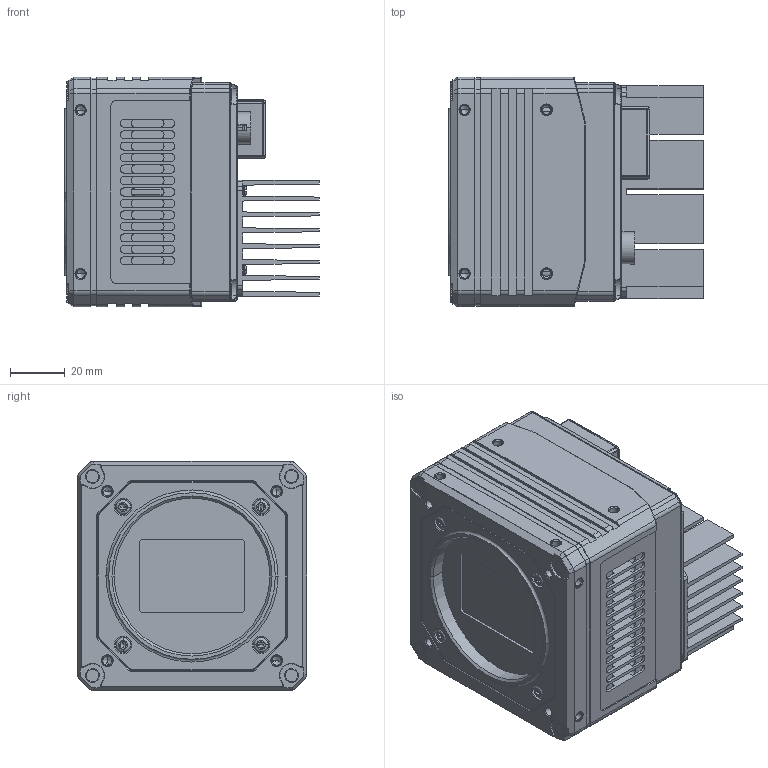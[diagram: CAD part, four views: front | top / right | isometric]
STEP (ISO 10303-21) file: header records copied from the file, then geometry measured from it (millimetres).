
FILE_DESCRIPTION((''),'2;1');
FILE_NAME('MV-CH240-10TM-M58','2026-06-11T19:05:57',('wangyijun6'),(''),'CREO PARAMETRIC BY PTC INC, 2020044','CREO PARAMETRIC BY PTC INC, 2020044','');
FILE_SCHEMA(('CONFIG_CONTROL_DESIGN'));
Products named in the file (1): MV-CH240-10TM-M58
Bounding box: 93.2 x 84 x 84 mm (x, y, z)
Volume: 424715.8 mm3; surface area: 114941.3 mm2
Topology: 1 solids, 45 shells, 3647 faces, 9937 edges, 6421 vertices
Faces by surface type: plane 1863, cylinder 1072, cone 419, extrusion 107, torus 90, bspline 86, sphere 10
Entity records: 133676 total; most frequent: CARTESIAN_POINT 41496, ORIENTED_EDGE 19614, DIRECTION 18830, EDGE_CURVE 9855, AXIS2_PLACEMENT_3D 6449, VERTEX_POINT 6421, VECTOR 5932, LINE 5825
